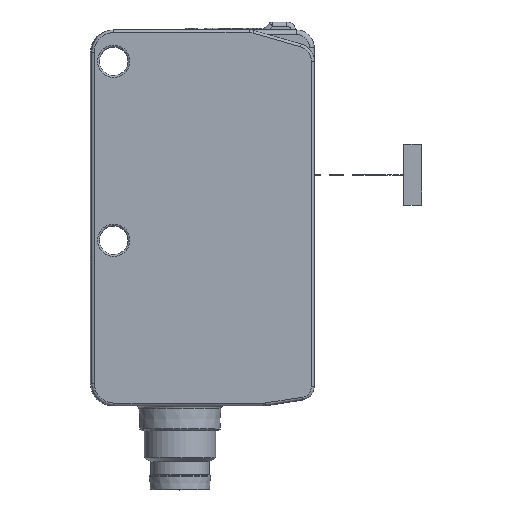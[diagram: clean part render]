
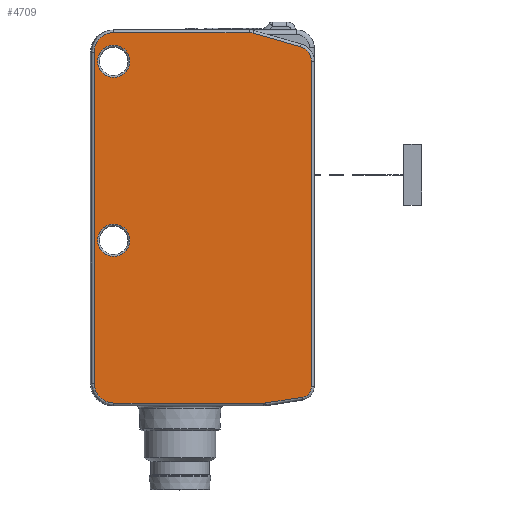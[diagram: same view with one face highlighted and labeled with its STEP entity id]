
A CAD part, top view. The second image highlights one B-rep face of the part: STEP entity #4709.
In plain terms, the highlighted planar face has unit normal (0, 0, 1).
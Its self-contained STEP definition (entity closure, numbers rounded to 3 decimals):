
#321=PLANE('',#9705);
#622=LINE('',#14610,#931);
#623=LINE('',#14612,#932);
#624=LINE('',#14614,#933);
#625=LINE('',#14618,#934);
#626=LINE('',#14622,#935);
#627=LINE('',#14626,#936);
#931=VECTOR('',#11136,1.);
#932=VECTOR('',#11139,1.);
#933=VECTOR('',#11140,1.);
#934=VECTOR('',#11143,1.);
#935=VECTOR('',#11146,1.);
#936=VECTOR('',#11149,1.);
#1147=CIRCLE('',#9529,1.8);
#1151=CIRCLE('',#9535,1.8);
#1236=CIRCLE('',#9702,1.2);
#1237=CIRCLE('',#9703,1.7);
#1238=CIRCLE('',#9704,1.7);
#4279=FACE_BOUND('',#5538,.T.);
#4280=FACE_BOUND('',#5539,.T.);
#4281=FACE_BOUND('',#5540,.T.);
#4709=ADVANCED_FACE('',(#4279,#4280,#4281),#321,.T.);
#5538=EDGE_LOOP('',(#7046,#7047,#7048,#7049,#7050,#7051,#7052,#7053,#7054,
#7055,#7056));
#5539=EDGE_LOOP('',(#7057));
#5540=EDGE_LOOP('',(#7058));
#7046=ORIENTED_EDGE('',*,*,#8806,.T.);
#7047=ORIENTED_EDGE('',*,*,#8527,.T.);
#7048=ORIENTED_EDGE('',*,*,#8807,.T.);
#7049=ORIENTED_EDGE('',*,*,#8808,.T.);
#7050=ORIENTED_EDGE('',*,*,#8809,.T.);
#7051=ORIENTED_EDGE('',*,*,#8810,.T.);
#7052=ORIENTED_EDGE('',*,*,#8811,.T.);
#7053=ORIENTED_EDGE('',*,*,#8812,.T.);
#7054=ORIENTED_EDGE('',*,*,#8813,.T.);
#7055=ORIENTED_EDGE('',*,*,#8814,.T.);
#7056=ORIENTED_EDGE('',*,*,#8805,.T.);
#7057=ORIENTED_EDGE('',*,*,#8518,.T.);
#7058=ORIENTED_EDGE('',*,*,#8514,.T.);
#7764=VERTEX_POINT('',#13077);
#7768=VERTEX_POINT('',#13115);
#7774=VERTEX_POINT('',#13162);
#7776=VERTEX_POINT('',#13196);
#7949=VERTEX_POINT('',#14577);
#7950=VERTEX_POINT('',#14581);
#7951=VERTEX_POINT('',#14613);
#7952=VERTEX_POINT('',#14615);
#7953=VERTEX_POINT('',#14617);
#7954=VERTEX_POINT('',#14619);
#7955=VERTEX_POINT('',#14621);
#7956=VERTEX_POINT('',#14623);
#7957=VERTEX_POINT('',#14625);
#8514=EDGE_CURVE('',#7764,#7764,#1147,.T.);
#8518=EDGE_CURVE('',#7768,#7768,#1151,.T.);
#8527=EDGE_CURVE('',#7774,#7776,#9013,.T.);
#8805=EDGE_CURVE('',#7949,#7950,#9074,.T.);
#8806=EDGE_CURVE('',#7950,#7774,#622,.T.);
#8807=EDGE_CURVE('',#7776,#7951,#623,.T.);
#8808=EDGE_CURVE('',#7951,#7952,#624,.T.);
#8809=EDGE_CURVE('',#7952,#7953,#1236,.T.);
#8810=EDGE_CURVE('',#7953,#7954,#625,.T.);
#8811=EDGE_CURVE('',#7954,#7955,#1237,.T.);
#8812=EDGE_CURVE('',#7955,#7956,#626,.T.);
#8813=EDGE_CURVE('',#7956,#7957,#1238,.T.);
#8814=EDGE_CURVE('',#7957,#7949,#627,.T.);
#9013=B_SPLINE_CURVE_WITH_KNOTS('',3,(#13197,#13198,#13199,#13200,#13201,
#13202,#13203),.UNSPECIFIED.,.F.,.F.,(4,1,1,1,4),(0.,0.282,
0.52,0.726,1.),.UNSPECIFIED.);
#9074=B_SPLINE_CURVE_WITH_KNOTS('',3,(#14582,#14583,#14584,#14585,#14586,
#14587,#14588),.UNSPECIFIED.,.F.,.F.,(4,1,1,1,4),(0.,0.282,
0.52,0.794,1.),.UNSPECIFIED.);
#9529=AXIS2_PLACEMENT_3D('',#13076,#10700,#10701);
#9535=AXIS2_PLACEMENT_3D('',#13114,#10712,#10713);
#9702=AXIS2_PLACEMENT_3D('',#14616,#11141,#11142);
#9703=AXIS2_PLACEMENT_3D('',#14620,#11144,#11145);
#9704=AXIS2_PLACEMENT_3D('',#14624,#11147,#11148);
#9705=AXIS2_PLACEMENT_3D('',#14627,#11150,#11151);
#10700=DIRECTION('',(0.,0.,-1.));
#10701=DIRECTION('',(-1.,0.,0.));
#10712=DIRECTION('',(0.,0.,-1.));
#10713=DIRECTION('',(-1.,0.,0.));
#11136=DIRECTION('',(0.,-1.,0.));
#11139=DIRECTION('',(1.,0.,0.));
#11140=DIRECTION('',(0.988,0.153,0.));
#11141=DIRECTION('',(0.,0.,1.));
#11142=DIRECTION('',(1.,0.,0.));
#11143=DIRECTION('',(0.,1.,0.));
#11144=DIRECTION('',(0.,0.,1.));
#11145=DIRECTION('',(1.,0.,0.));
#11146=DIRECTION('',(-0.962,0.275,0.));
#11147=DIRECTION('',(0.,0.,1.));
#11148=DIRECTION('',(0.,-1.,0.));
#11149=DIRECTION('',(-1.,0.,0.));
#11150=DIRECTION('',(0.,0.,1.));
#11151=DIRECTION('',(1.,0.,0.));
#13076=CARTESIAN_POINT('',(0.,20.,14.));
#13077=CARTESIAN_POINT('',(-1.8,20.,14.));
#13114=CARTESIAN_POINT('',(0.,0.,14.));
#13115=CARTESIAN_POINT('',(-1.8,0.,14.));
#13162=CARTESIAN_POINT('',(-2.183,-16.,14.));
#13196=CARTESIAN_POINT('',(0.017,-18.2,14.));
#13197=CARTESIAN_POINT('',(-2.183,-16.,14.));
#13198=CARTESIAN_POINT('',(-2.183,-16.325,14.));
#13199=CARTESIAN_POINT('',(-2.048,-16.923,14.));
#13200=CARTESIAN_POINT('',(-1.547,-17.61,14.));
#13201=CARTESIAN_POINT('',(-0.852,-18.079,14.));
#13202=CARTESIAN_POINT('',(-0.299,-18.2,14.));
#13203=CARTESIAN_POINT('',(0.017,-18.2,14.));
#14577=CARTESIAN_POINT('',(0.017,23.2,14.));
#14581=CARTESIAN_POINT('',(-2.183,21.,14.));
#14582=CARTESIAN_POINT('',(0.017,23.2,14.));
#14583=CARTESIAN_POINT('',(-0.307,23.2,14.));
#14584=CARTESIAN_POINT('',(-0.906,23.065,14.));
#14585=CARTESIAN_POINT('',(-1.658,22.517,14.));
#14586=CARTESIAN_POINT('',(-2.093,21.791,14.));
#14587=CARTESIAN_POINT('',(-2.183,21.237,14.));
#14588=CARTESIAN_POINT('',(-2.183,21.,14.));
#14610=CARTESIAN_POINT('',(-2.183,11.75,14.));
#14612=CARTESIAN_POINT('',(8.447,-18.2,14.));
#14613=CARTESIAN_POINT('',(16.877,-18.2,14.));
#14614=CARTESIAN_POINT('',(18.98,-17.875,14.));
#14615=CARTESIAN_POINT('',(21.083,-17.55,14.));
#14616=CARTESIAN_POINT('',(20.9,-16.364,14.));
#14617=CARTESIAN_POINT('',(22.1,-16.364,14.));
#14618=CARTESIAN_POINT('',(22.1,1.814,14.));
#14619=CARTESIAN_POINT('',(22.1,19.991,14.));
#14620=CARTESIAN_POINT('',(20.4,19.991,14.));
#14621=CARTESIAN_POINT('',(20.867,21.626,14.));
#14622=CARTESIAN_POINT('',(18.227,22.38,14.));
#14623=CARTESIAN_POINT('',(15.587,23.135,14.));
#14624=CARTESIAN_POINT('',(15.12,21.5,14.));
#14625=CARTESIAN_POINT('',(15.12,23.2,14.));
#14626=CARTESIAN_POINT('',(7.569,23.2,14.));
#14627=CARTESIAN_POINT('',(23.65,25.6,14.));
